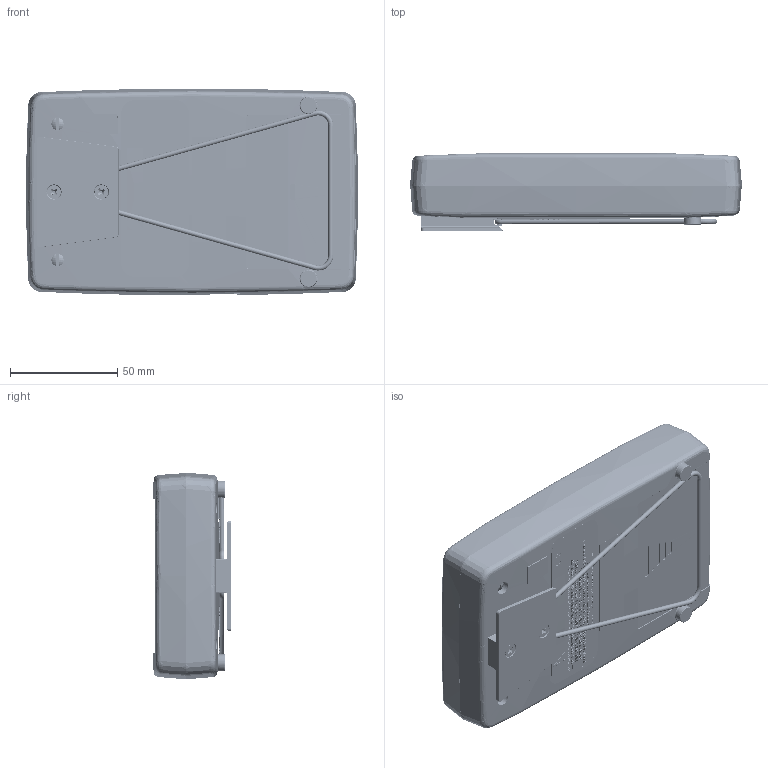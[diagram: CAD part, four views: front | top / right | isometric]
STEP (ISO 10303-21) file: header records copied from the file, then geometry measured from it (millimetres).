
FILE_DESCRIPTION (( 'STEP AP214' ), '1' );
FILE_NAME ('AII-2000.STEP', '2025-10-17T18:18:37', ( '' ), ( '' ), 'SwSTEP 2.0', 'SolidWorks 2025', '' );
FILE_SCHEMA (( 'AUTOMOTIVE_DESIGN' ));
Length unit declared in the file: inch
Products named in the file (1): AII-2000
Bounding box: 154.94 x 36.35 x 96.52 mm (x, y, z)
Volume: 186199.7 mm3; surface area: 167075.4 mm2
Topology: 45 solids, 47 shells, 7851 faces, 21030 edges, 13789 vertices
Faces by surface type: plane 4219, bspline 2348, cylinder 877, cone 167, torus 160, sphere 80
Entity records: 409906 total; most frequent: CARTESIAN_POINT 231131, ORIENTED_EDGE 41960, DIRECTION 27579, EDGE_CURVE 20980, VERTEX_POINT 13789, LINE 13257, VECTOR 13257, EDGE_LOOP 8501
